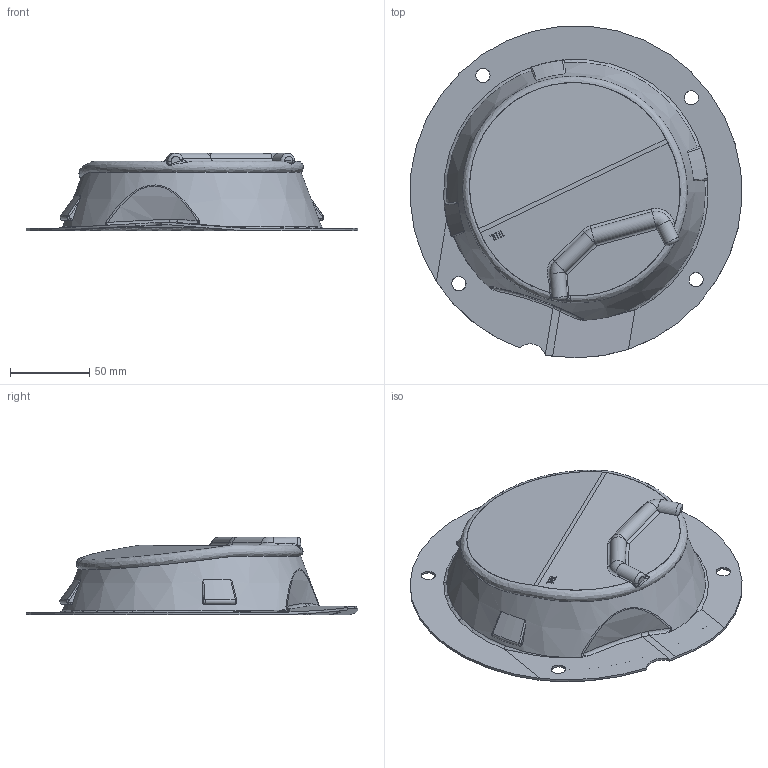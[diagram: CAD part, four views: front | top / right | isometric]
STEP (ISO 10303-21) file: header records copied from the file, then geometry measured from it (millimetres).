
FILE_DESCRIPTION(/* description */ ('Unknown','CAx-IF Rec.Pracs.---Representation and Presentation of Product Manufacturing Information (PMI)---4.0---2014-10-13','CAx-IF Rec.Pracs.---3D Tessellated Geometry---0.4---2014-09-14','2;1'),/* implementation_level */ '2;1');
FILE_NAME(/* name */ 'izquierda altavoz cobertura',/* time_stamp */ '2025-01-26T11:27:19+01:00',/* author */ ('Unknown'),/* organization */ ('Unknown'),/* preprocessor_version */ 'ST-DEVELOPER v16.7',/* originating_system */ 'Solid Edge',/* authorisation */ 'Unknown');
FILE_SCHEMA (('AP242_MANAGED_MODEL_BASED_3D_ENGINEERING_MIM_LF { 1 0 10303 442 1 1 4 }'));
Length unit declared in the file: millimetre
Products named in the file (1): izquierda altavoz cobertura
Bounding box: 209.68 x 209.65 x 49 mm (x, y, z)
Volume: 98535.9 mm3; surface area: 98678.5 mm2
Topology: 1 solids, 1 shells, 224 faces, 597 edges, 370 vertices
Faces by surface type: plane 72, bspline 62, cylinder 50, torus 28, cone 11, sphere 1
Full cylindrical faces by diameter (mm): 9 x4
Entity records: 10581 total; most frequent: CARTESIAN_POINT 5603, ORIENTED_EDGE 1156, DIRECTION 871, EDGE_CURVE 578, VERTEX_POINT 363, AXIS2_PLACEMENT_3D 339, EDGE_LOOP 243, FACE_BOUND 243
